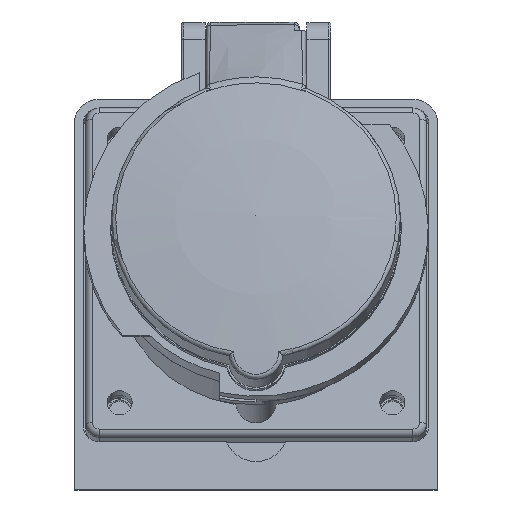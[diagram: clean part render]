
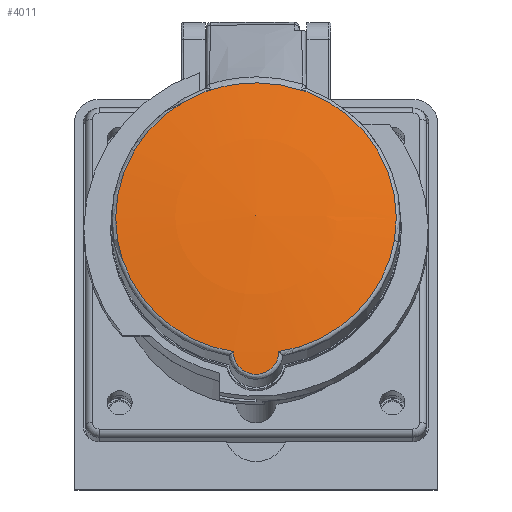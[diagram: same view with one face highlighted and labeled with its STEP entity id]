
A CAD part, front view. The second image highlights one B-rep face of the part: STEP entity #4011.
In plain terms, the highlighted spherical face has radius 253.016 mm.
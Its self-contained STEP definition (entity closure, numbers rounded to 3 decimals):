
#3601 = VERTEX_POINT('',#3602);
#3602 = CARTESIAN_POINT('',(-11.002,-75.872,
    87.698));
#3609 = EDGE_CURVE('',#3610,#3601,#3612,.T.);
#3610 = VERTEX_POINT('',#3611);
#3611 = CARTESIAN_POINT('',(11.002,-75.872,
    87.698));
#3612 = B_SPLINE_CURVE_WITH_KNOTS('',3,(#3613,#3614,#3615,#3616,#3617,
    #3618,#3619,#3620,#3621,#3622,#3623,#3624,#3625,#3626,#3627,#3628,
    #3629,#3630,#3631,#3632,#3633,#3634,#3635,#3636,#3637,#3638,#3639,
    #3640,#3641,#3642,#3643,#3644,#3645,#3646,#3647,#3648,#3649,#3650,
    #3651,#3652,#3653,#3654,#3655,#3656,#3657,#3658,#3659,#3660,#3661,
    #3662,#3663,#3664,#3665,#3666,#3667,#3668,#3669,#3670),
  .UNSPECIFIED.,.F.,.F.,(4,2,2,2,1,2,2,2,2,2,2,2,2,1,1,2,2,2,2,2,2,2,2,1
    ,2,2,2,2,2,2,4),(0.,0.125,0.188,0.219,0.234,0.242,0.25,
    0.281,0.297,0.305,0.313,0.375,0.438,0.469,0.484,
    0.492,0.5,0.531,0.547,0.563,0.594,0.609,0.625,0.656
    ,0.672,0.688,0.719,0.734,0.742,0.75,1.),.UNSPECIFIED.);
#3613 = CARTESIAN_POINT('',(11.002,-75.872,
    87.698));
#3614 = CARTESIAN_POINT('',(10.288,-75.802,
    87.959));
#3615 = CARTESIAN_POINT('',(9.205,-75.717,88.286
    ));
#3616 = CARTESIAN_POINT('',(8.04,-75.642,88.58)
  );
#3617 = CARTESIAN_POINT('',(7.621,-75.616,
    88.681));
#3618 = CARTESIAN_POINT('',(6.943,-75.576,
    88.832));
#3619 = CARTESIAN_POINT('',(6.708,-75.563,
    88.882));
#3620 = CARTESIAN_POINT('',(6.345,-75.543,
    88.956));
#3621 = CARTESIAN_POINT('',(6.16,-75.534,
    88.992));
#3622 = CARTESIAN_POINT('',(5.971,-75.524,
    89.028));
#3623 = CARTESIAN_POINT('',(5.843,-75.518,
    89.052));
#3624 = CARTESIAN_POINT('',(5.743,-75.513,
    89.071));
#3625 = CARTESIAN_POINT('',(5.6,-75.506,
    89.097));
#3626 = CARTESIAN_POINT('',(5.427,-75.497,
    89.128));
#3627 = CARTESIAN_POINT('',(5.078,-75.481,
    89.186));
#3628 = CARTESIAN_POINT('',(4.947,-75.476,
    89.208));
#3629 = CARTESIAN_POINT('',(4.728,-75.467,
    89.242));
#3630 = CARTESIAN_POINT('',(4.652,-75.463,
    89.253));
#3631 = CARTESIAN_POINT('',(4.491,-75.457,
    89.277));
#3632 = CARTESIAN_POINT('',(4.378,-75.453,
    89.293));
#3633 = CARTESIAN_POINT('',(3.847,-75.433,
    89.367));
#3634 = CARTESIAN_POINT('',(3.382,-75.418,89.42
    ));
#3635 = CARTESIAN_POINT('',(2.439,-75.395,89.506
    ));
#3636 = CARTESIAN_POINT('',(1.966,-75.387,
    89.539));
#3637 = CARTESIAN_POINT('',(1.257,-75.378,
    89.571));
#3638 = CARTESIAN_POINT('',(0.902,-75.375,
    89.584));
#3639 = CARTESIAN_POINT('',(0.488,-75.373,
    89.591));
#3640 = CARTESIAN_POINT('',(0.31,-75.373,
    89.593));
#3641 = CARTESIAN_POINT('',(0.192,-75.372,
    89.593));
#3642 = CARTESIAN_POINT('',(0.092,-75.372,
    89.594));
#3643 = CARTESIAN_POINT('',(-0.003,-75.372,
    89.594));
#3644 = CARTESIAN_POINT('',(-0.16,-75.372,
    89.594));
#3645 = CARTESIAN_POINT('',(-0.516,-75.373,
    89.59));
#3646 = CARTESIAN_POINT('',(-0.654,-75.374,
    89.588));
#3647 = CARTESIAN_POINT('',(-0.971,-75.376,
    89.58));
#3648 = CARTESIAN_POINT('',(-1.186,-75.378,
    89.573));
#3649 = CARTESIAN_POINT('',(-1.674,-75.383,
    89.553));
#3650 = CARTESIAN_POINT('',(-1.955,-75.387,
    89.537));
#3651 = CARTESIAN_POINT('',(-2.31,-75.394,
    89.513));
#3652 = CARTESIAN_POINT('',(-2.418,-75.396,
    89.505));
#3653 = CARTESIAN_POINT('',(-2.61,-75.4,
    89.489));
#3654 = CARTESIAN_POINT('',(-2.654,-75.401,
    89.486));
#3655 = CARTESIAN_POINT('',(-3.001,-75.409,
    89.456));
#3656 = CARTESIAN_POINT('',(-3.352,-75.418,
    89.421));
#3657 = CARTESIAN_POINT('',(-3.709,-75.429,
    89.38));
#3658 = CARTESIAN_POINT('',(-3.948,-75.437,
    89.35));
#3659 = CARTESIAN_POINT('',(-4.014,-75.44,
    89.342));
#3660 = CARTESIAN_POINT('',(-4.538,-75.459,
    89.271));
#3661 = CARTESIAN_POINT('',(-4.829,-75.471,
    89.226));
#3662 = CARTESIAN_POINT('',(-5.182,-75.486,
    89.169));
#3663 = CARTESIAN_POINT('',(-5.285,-75.491,
    89.151));
#3664 = CARTESIAN_POINT('',(-5.419,-75.497,
    89.128));
#3665 = CARTESIAN_POINT('',(-5.461,-75.499,
    89.121));
#3666 = CARTESIAN_POINT('',(-5.536,-75.503,
    89.108));
#3667 = CARTESIAN_POINT('',(-5.541,-75.503,
    89.107));
#3668 = CARTESIAN_POINT('',(-7.513,-75.597,
    88.754));
#3669 = CARTESIAN_POINT('',(-9.273,-75.703,
    88.33));
#3670 = CARTESIAN_POINT('',(-11.002,-75.872,
    87.698));
#3735 = EDGE_CURVE('',#3610,#3736,#3738,.T.);
#3736 = VERTEX_POINT('',#3737);
#3737 = CARTESIAN_POINT('',(30.872,-83.328,
    59.86));
#3738 = CIRCLE('',#3739,30.872);
#3739 = AXIS2_PLACEMENT_3D('',#3740,#3741,#3742);
#3740 = CARTESIAN_POINT('',(0.,-83.328,
    59.86));
#3741 = DIRECTION('',(0.,0.966,-0.259));
#3742 = DIRECTION('',(0.357,0.242,0.902));
#3744 = EDGE_CURVE('',#3736,#3745,#3747,.T.);
#3745 = VERTEX_POINT('',#3746);
#3746 = CARTESIAN_POINT('',(5.02,-91.212,
    30.436));
#3747 = CIRCLE('',#3748,30.872);
#3748 = AXIS2_PLACEMENT_3D('',#3749,#3750,#3751);
#3749 = CARTESIAN_POINT('',(0.,-83.328,
    59.86));
#3750 = DIRECTION('',(0.,0.966,-0.259));
#3751 = DIRECTION('',(1.,0.,0.));
#3906 = VERTEX_POINT('',#3907);
#3907 = CARTESIAN_POINT('',(-5.02,-91.212,
    30.436));
#3922 = EDGE_CURVE('',#3906,#3745,#3923,.T.);
#3923 = B_SPLINE_CURVE_WITH_KNOTS('',3,(#3924,#3925,#3926,#3927,#3928,
    #3929,#3930,#3931,#3932,#3933),.UNSPECIFIED.,.F.,.F.,(4,2,2,2,4),(0.
    ,0.25,0.5,0.75,1.),.UNSPECIFIED.);
#3924 = CARTESIAN_POINT('',(-5.02,-91.212,
    30.436));
#3925 = CARTESIAN_POINT('',(-5.009,-91.392,
    29.166));
#3926 = CARTESIAN_POINT('',(-4.47,-91.58,
    27.848));
#3927 = CARTESIAN_POINT('',(-2.603,-91.842,
    26.));
#3928 = CARTESIAN_POINT('',(-1.306,-91.917,
    25.47));
#3929 = CARTESIAN_POINT('',(1.309,-91.917,
    25.471));
#3930 = CARTESIAN_POINT('',(2.595,-91.843,
    25.993));
#3931 = CARTESIAN_POINT('',(4.478,-91.578,
    27.857));
#3932 = CARTESIAN_POINT('',(5.009,-91.392,
    29.167));
#3933 = CARTESIAN_POINT('',(5.02,-91.212,
    30.436));
#4011 = ADVANCED_FACE('',(#4012),#4045,.T.);
#4012 = FACE_BOUND('',#4013,.T.);
#4013 = EDGE_LOOP('',(#4014,#4015,#4016,#4025,#4032,#4033,#4034,#4044));
#4014 = ORIENTED_EDGE('',*,*,#3735,.F.);
#4015 = ORIENTED_EDGE('',*,*,#3609,.T.);
#4016 = ORIENTED_EDGE('',*,*,#4017,.F.);
#4017 = EDGE_CURVE('',#4018,#3601,#4020,.T.);
#4018 = VERTEX_POINT('',#4019);
#4019 = CARTESIAN_POINT('',(-30.872,-83.328,
    59.86));
#4020 = CIRCLE('',#4021,30.872);
#4021 = AXIS2_PLACEMENT_3D('',#4022,#4023,#4024);
#4022 = CARTESIAN_POINT('',(0.,-83.328,
    59.86));
#4023 = DIRECTION('',(0.,0.966,-0.259));
#4024 = DIRECTION('',(-1.,0.,0.));
#4025 = ORIENTED_EDGE('',*,*,#4026,.F.);
#4026 = EDGE_CURVE('',#3906,#4018,#4027,.T.);
#4027 = CIRCLE('',#4028,30.872);
#4028 = AXIS2_PLACEMENT_3D('',#4029,#4030,#4031);
#4029 = CARTESIAN_POINT('',(0.,-83.328,
    59.86));
#4030 = DIRECTION('',(0.,0.966,-0.259));
#4031 = DIRECTION('',(-0.163,-0.255,-0.953));
#4032 = ORIENTED_EDGE('',*,*,#3922,.T.);
#4033 = ORIENTED_EDGE('',*,*,#3744,.F.);
#4034 = ORIENTED_EDGE('',*,*,#4035,.F.);
#4035 = EDGE_CURVE('',#4036,#3736,#4038,.T.);
#4036 = VERTEX_POINT('',#4037);
#4037 = CARTESIAN_POINT('',(0.,-85.154,
    60.349));
#4038 = B_SPLINE_CURVE_WITH_KNOTS('',4,(#4039,#4040,#4041,#4042,#4043),
  .UNSPECIFIED.,.F.,.F.,(5,5),(-1.571,-1.448),
  .PIECEWISE_BEZIER_KNOTS.);
#4039 = CARTESIAN_POINT('',(0.,-85.154,
    60.349));
#4040 = CARTESIAN_POINT('',(7.737,-85.154,
    60.349));
#4041 = CARTESIAN_POINT('',(15.475,-84.849,
    60.267));
#4042 = CARTESIAN_POINT('',(23.193,-84.24,
    60.104));
#4043 = CARTESIAN_POINT('',(30.872,-83.328,
    59.86));
#4044 = ORIENTED_EDGE('',*,*,#4035,.T.);
#4045 = SPHERICAL_SURFACE('',#4046,253.016);
#4046 = AXIS2_PLACEMENT_3D('',#4047,#4048,#4049);
#4047 = CARTESIAN_POINT('',(0.,159.24,
    -5.136));
#4048 = DIRECTION('',(0.,0.966,-0.259)
  );
#4049 = DIRECTION('',(1.,0.,0.));
